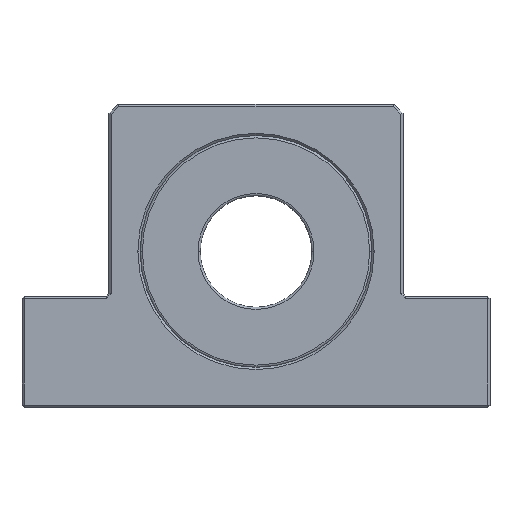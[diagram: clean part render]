
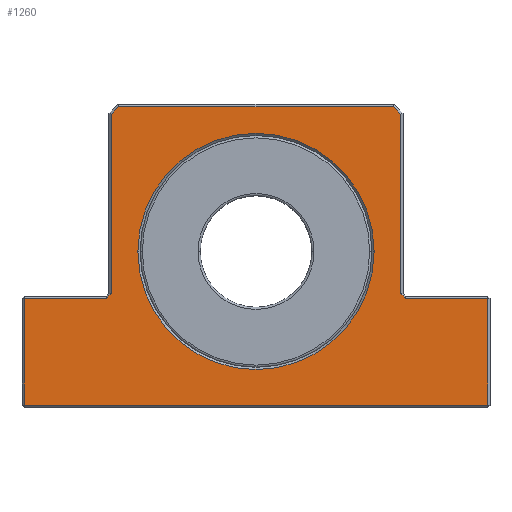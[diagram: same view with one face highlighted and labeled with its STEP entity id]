
A CAD part, top view. The second image highlights one B-rep face of the part: STEP entity #1260.
In plain terms, the highlighted planar face has unit normal (0, 0, 1).
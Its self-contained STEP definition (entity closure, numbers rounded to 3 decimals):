
#109 = AXIS2_PLACEMENT_3D ( 'NONE', #974, #975, #976 ) ;
#115 = VERTEX_POINT ( 'NONE', #647 ) ;
#116 = VERTEX_POINT ( 'NONE', #648 ) ;
#200 = EDGE_LOOP ( 'NONE', ( #331, #329, #330, #328, #327, #326, #325, #324, #323, #322, #321, #320 ) ) ;
#209 = VERTEX_POINT ( 'NONE', #670 ) ;
#231 = EDGE_LOOP ( 'NONE', ( #333, #332 ) ) ;
#234 = VERTEX_POINT ( 'NONE', #673 ) ;
#235 = VERTEX_POINT ( 'NONE', #674 ) ;
#236 = VERTEX_POINT ( 'NONE', #675 ) ;
#237 = VERTEX_POINT ( 'NONE', #676 ) ;
#246 = VERTEX_POINT ( 'NONE', #685 ) ;
#247 = VERTEX_POINT ( 'NONE', #686 ) ;
#249 = VERTEX_POINT ( 'NONE', #688 ) ;
#252 = VERTEX_POINT ( 'NONE', #691 ) ;
#253 = VERTEX_POINT ( 'NONE', #692 ) ;
#258 = VERTEX_POINT ( 'NONE', #697 ) ;
#259 = VERTEX_POINT ( 'NONE', #698 ) ;
#320 = ORIENTED_EDGE ( 'NONE', *, *, #1210, .T. ) ;
#321 = ORIENTED_EDGE ( 'NONE', *, *, #1211, .T. ) ;
#322 = ORIENTED_EDGE ( 'NONE', *, *, #1212, .T. ) ;
#323 = ORIENTED_EDGE ( 'NONE', *, *, #1213, .F. ) ;
#324 = ORIENTED_EDGE ( 'NONE', *, *, #1214, .T. ) ;
#325 = ORIENTED_EDGE ( 'NONE', *, *, #1215, .T. ) ;
#326 = ORIENTED_EDGE ( 'NONE', *, *, #1216, .T. ) ;
#327 = ORIENTED_EDGE ( 'NONE', *, *, #1217, .T. ) ;
#328 = ORIENTED_EDGE ( 'NONE', *, *, #1218, .T. ) ;
#329 = ORIENTED_EDGE ( 'NONE', *, *, #1222, .T. ) ;
#330 = ORIENTED_EDGE ( 'NONE', *, *, #1219, .F. ) ;
#331 = ORIENTED_EDGE ( 'NONE', *, *, #1220, .T. ) ;
#332 = ORIENTED_EDGE ( 'NONE', *, *, #1221, .T. ) ;
#333 = ORIENTED_EDGE ( 'NONE', *, *, #1247, .T. ) ;
#647 = CARTESIAN_POINT ( 'NONE',  ( -32.5, 30.793, 15. ) ) ;
#648 = CARTESIAN_POINT ( 'NONE',  ( -30.793, 32.5, 15. ) ) ;
#670 = CARTESIAN_POINT ( 'NONE',  ( 32.5, -9.5, 15. ) ) ;
#673 = CARTESIAN_POINT ( 'NONE',  ( -32.5, -9.5, 15. ) ) ;
#674 = CARTESIAN_POINT ( 'NONE',  ( -33.5, -10.5, 15. ) ) ;
#675 = CARTESIAN_POINT ( 'NONE',  ( 32.5, 30.793, 15. ) ) ;
#676 = CARTESIAN_POINT ( 'NONE',  ( 52., -10.5, 15. ) ) ;
#685 = CARTESIAN_POINT ( 'NONE',  ( -52., -34.5, 15. ) ) ;
#686 = CARTESIAN_POINT ( 'NONE',  ( -52., -10.5, 15. ) ) ;
#688 = CARTESIAN_POINT ( 'NONE',  ( 33.5, -10.5, 15. ) ) ;
#691 = CARTESIAN_POINT ( 'NONE',  ( 30.793, 32.5, 15. ) ) ;
#692 = CARTESIAN_POINT ( 'NONE',  ( 52., -34.5, 15. ) ) ;
#697 = CARTESIAN_POINT ( 'NONE',  ( 26.5, 0., 15. ) ) ;
#698 = CARTESIAN_POINT ( 'NONE',  ( -26.5, 0., 15. ) ) ;
#813 = CARTESIAN_POINT ( 'NONE',  ( 0., 0., 15. ) ) ;
#817 = LINE ( 'NONE', #818, #1119 ) ;
#818 = CARTESIAN_POINT ( 'NONE',  ( 0., -34.5, 15. ) ) ;
#819 = DIRECTION ( 'NONE',  ( 1., 0., 0. ) ) ;
#820 = LINE ( 'NONE', #821, #1120 ) ;
#821 = CARTESIAN_POINT ( 'NONE',  ( -52., 0., 15. ) ) ;
#822 = DIRECTION ( 'NONE',  ( 0., -1., 0. ) ) ;
#823 = LINE ( 'NONE', #824, #1121 ) ;
#824 = CARTESIAN_POINT ( 'NONE',  ( 0., -10.5, 15. ) ) ;
#825 = DIRECTION ( 'NONE',  ( -1., 0., 0. ) ) ;
#826 = LINE ( 'NONE', #827, #1122 ) ;
#827 = CARTESIAN_POINT ( 'NONE',  ( -32.5, -9.5, 15. ) ) ;
#828 = DIRECTION ( 'NONE',  ( 0.707, 0.707, 0. ) ) ;
#829 = LINE ( 'NONE', #830, #1123 ) ;
#830 = CARTESIAN_POINT ( 'NONE',  ( -32.5, 0., 15. ) ) ;
#831 = DIRECTION ( 'NONE',  ( 0., -1., 0. ) ) ;
#832 = LINE ( 'NONE', #833, #1124 ) ;
#833 = CARTESIAN_POINT ( 'NONE',  ( -32.646, 30.646, 15. ) ) ;
#834 = DIRECTION ( 'NONE',  ( -0.707, -0.707, 0. ) ) ;
#835 = LINE ( 'NONE', #836, #1125 ) ;
#836 = CARTESIAN_POINT ( 'NONE',  ( 0., 32.5, 15. ) ) ;
#837 = DIRECTION ( 'NONE',  ( -1., 0., 0. ) ) ;
#838 = LINE ( 'NONE', #839, #1126 ) ;
#839 = CARTESIAN_POINT ( 'NONE',  ( 30.646, 32.646, 15. ) ) ;
#840 = DIRECTION ( 'NONE',  ( -0.707, 0.707, 0. ) ) ;
#841 = LINE ( 'NONE', #842, #1127 ) ;
#842 = CARTESIAN_POINT ( 'NONE',  ( 32.5, 0., 15. ) ) ;
#843 = DIRECTION ( 'NONE',  ( 0., 1., 0. ) ) ;
#844 = LINE ( 'NONE', #845, #1129 ) ;
#845 = CARTESIAN_POINT ( 'NONE',  ( 33.5, -10.5, 15. ) ) ;
#846 = DIRECTION ( 'NONE',  ( 0.707, -0.707, 0. ) ) ;
#847 = LINE ( 'NONE', #848, #1130 ) ;
#848 = CARTESIAN_POINT ( 'NONE',  ( 52., 0., 15. ) ) ;
#849 = DIRECTION ( 'NONE',  ( 0., 1., 0. ) ) ;
#850 = DIRECTION ( 'NONE',  ( 0., 0., -1. ) ) ;
#851 = DIRECTION ( 'NONE',  ( -1., 0., 0. ) ) ;
#853 = LINE ( 'NONE', #854, #1132 ) ;
#854 = CARTESIAN_POINT ( 'NONE',  ( 0., -10.5, 15. ) ) ;
#855 = DIRECTION ( 'NONE',  ( -1., 0., 0. ) ) ;
#921 = CARTESIAN_POINT ( 'NONE',  ( 0., 0., 15. ) ) ;
#928 = DIRECTION ( 'NONE',  ( 0., 0., -1. ) ) ;
#929 = DIRECTION ( 'NONE',  ( -1., 0., 0. ) ) ;
#973 = PLANE ( 'NONE',  #109 ) ;
#974 = CARTESIAN_POINT ( 'NONE',  ( 0., 0., 15. ) ) ;
#975 = DIRECTION ( 'NONE',  ( 0., 0., -1. ) ) ;
#976 = DIRECTION ( 'NONE',  ( -1., 0., 0. ) ) ;
#1119 = VECTOR ( 'NONE', #819, 1000. ) ;
#1120 = VECTOR ( 'NONE', #822, 1000. ) ;
#1121 = VECTOR ( 'NONE', #825, 1000. ) ;
#1122 = VECTOR ( 'NONE', #828, 1000. ) ;
#1123 = VECTOR ( 'NONE', #831, 1000. ) ;
#1124 = VECTOR ( 'NONE', #834, 1000. ) ;
#1125 = VECTOR ( 'NONE', #837, 1000. ) ;
#1126 = VECTOR ( 'NONE', #840, 1000. ) ;
#1127 = VECTOR ( 'NONE', #843, 1000. ) ;
#1128 = AXIS2_PLACEMENT_3D ( 'NONE', #813, #850, #851 ) ;
#1129 = VECTOR ( 'NONE', #846, 1000. ) ;
#1130 = VECTOR ( 'NONE', #849, 1000. ) ;
#1132 = VECTOR ( 'NONE', #855, 1000. ) ;
#1148 = CIRCLE ( 'NONE', #1128, 26.5 ) ;
#1158 = CIRCLE ( 'NONE', #1437, 26.5 ) ;
#1210 = EDGE_CURVE ( 'NONE', #246, #253, #817, .T. ) ;
#1211 = EDGE_CURVE ( 'NONE', #247, #246, #820, .T. ) ;
#1212 = EDGE_CURVE ( 'NONE', #235, #247, #823, .T. ) ;
#1213 = EDGE_CURVE ( 'NONE', #235, #234, #826, .T. ) ;
#1214 = EDGE_CURVE ( 'NONE', #115, #234, #829, .T. ) ;
#1215 = EDGE_CURVE ( 'NONE', #116, #115, #832, .T. ) ;
#1216 = EDGE_CURVE ( 'NONE', #252, #116, #835, .T. ) ;
#1217 = EDGE_CURVE ( 'NONE', #236, #252, #838, .T. ) ;
#1218 = EDGE_CURVE ( 'NONE', #209, #236, #841, .T. ) ;
#1219 = EDGE_CURVE ( 'NONE', #209, #249, #844, .T. ) ;
#1220 = EDGE_CURVE ( 'NONE', #253, #237, #847, .T. ) ;
#1221 = EDGE_CURVE ( 'NONE', #259, #258, #1148, .T. ) ;
#1222 = EDGE_CURVE ( 'NONE', #237, #249, #853, .T. ) ;
#1247 = EDGE_CURVE ( 'NONE', #258, #259, #1158, .T. ) ;
#1260 = ADVANCED_FACE ( 'NONE', ( #1461, #1453 ), #973, .F. ) ;
#1437 = AXIS2_PLACEMENT_3D ( 'NONE', #921, #928, #929 ) ;
#1453 = FACE_OUTER_BOUND ( 'NONE', #200, .T. ) ;
#1461 = FACE_BOUND ( 'NONE', #231, .T. ) ;
